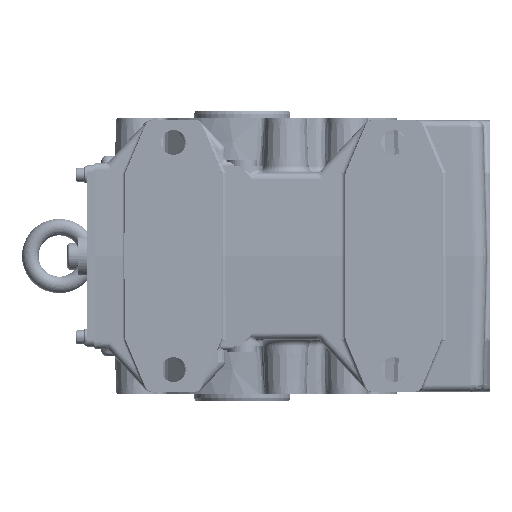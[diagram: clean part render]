
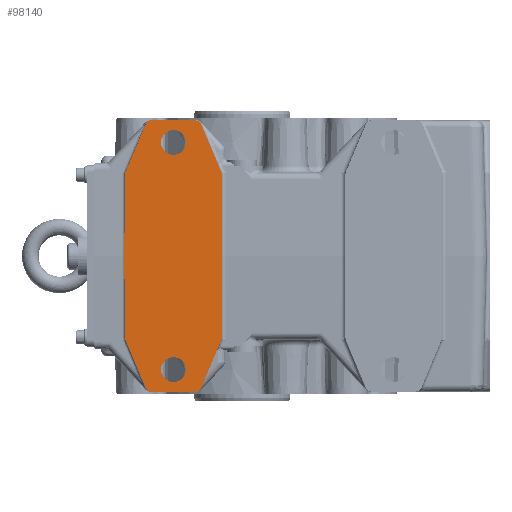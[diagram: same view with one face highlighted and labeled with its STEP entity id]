
A CAD part, left-side view. The second image highlights one B-rep face of the part: STEP entity #98140.
In plain terms, the highlighted planar face has unit normal (-1, 0, 0).
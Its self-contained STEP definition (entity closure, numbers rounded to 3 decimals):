
#77235=CARTESIAN_POINT('',(-112.,84.614,61.429));
#77236=VERTEX_POINT('',#77235);
#77237=CARTESIAN_POINT('',(-112.,82.368,66.75));
#77238=VERTEX_POINT('',#77237);
#77239=CARTESIAN_POINT('',(-112.,84.212,67.526));
#77240=DIRECTION('',(-1.0,0.0,0.0));
#77241=DIRECTION('',(0.0,0.388,-0.922));
#77242=AXIS2_PLACEMENT_3D('',#77239,#77240,#77241);
#77243=ELLIPSE('',#77242,82.895,2.0);
#77244=EDGE_CURVE('',#77236,#77238,#77243,.T.);
#77292=CARTESIAN_POINT('',(-112.,85.011,59.485));
#77293=VERTEX_POINT('',#77292);
#77294=CARTESIAN_POINT('',(-112.,85.011,59.485));
#77295=CARTESIAN_POINT('',(-112.,85.01,59.818));
#77296=CARTESIAN_POINT('',(-112.,84.976,60.151));
#77297=CARTESIAN_POINT('',(-112.,84.909,60.478));
#77298=CARTESIAN_POINT('',(-112.,84.842,60.804));
#77299=CARTESIAN_POINT('',(-112.,84.744,61.123));
#77300=CARTESIAN_POINT('',(-112.,84.614,61.429));
#77301=B_SPLINE_CURVE_WITH_KNOTS('',3,(#77294,#77295,#77296,#77297,#77298,#77299,#77300),.UNSPECIFIED.,.F.,.U.,(4,3,4),(-0.2,-0.1,0.0),.UNSPECIFIED.);
#77302=EDGE_CURVE('',#77293,#77236,#77301,.T.);
#77329=CARTESIAN_POINT('',(-112.,86.064,0.));
#77330=VERTEX_POINT('',#77329);
#77331=CARTESIAN_POINT('',(-112.,87.0,67.526));
#77332=DIRECTION('',(-1.0,0.0,0.0));
#77333=DIRECTION('',(0.0,0.0,-1.0));
#77334=AXIS2_PLACEMENT_3D('',#77331,#77332,#77333);
#77335=ELLIPSE('',#77334,76.403,2.0);
#77336=EDGE_CURVE('',#77330,#77293,#77335,.T.);
#77362=CARTESIAN_POINT('',(-112.,85.011,-59.485));
#77363=VERTEX_POINT('',#77362);
#77364=CARTESIAN_POINT('',(-112.,87.0,-67.526));
#77365=DIRECTION('',(-1.0,0.0,0.0));
#77366=DIRECTION('',(0.0,0.0,1.0));
#77367=AXIS2_PLACEMENT_3D('',#77364,#77365,#77366);
#77368=ELLIPSE('',#77367,76.403,2.0);
#77369=EDGE_CURVE('',#77363,#77330,#77368,.T.);
#84400=CARTESIAN_POINT('',(-112.,15.392,61.431));
#84401=VERTEX_POINT('',#84400);
#84402=CARTESIAN_POINT('',(-112.,15.0,59.49));
#84403=VERTEX_POINT('',#84402);
#84404=CARTESIAN_POINT('',(-112.,20.0,59.49));
#84405=DIRECTION('',(1.0,0.0,0.0));
#84406=DIRECTION('',(0.0,-0.98,0.198));
#84407=AXIS2_PLACEMENT_3D('',#84404,#84405,#84406);
#84408=CIRCLE('',#84407,5.);
#84409=EDGE_CURVE('',#84401,#84403,#84408,.T.);
#84432=CARTESIAN_POINT('',(-112.,29.712,95.44));
#84433=VERTEX_POINT('',#84432);
#84434=CARTESIAN_POINT('',(-112.,29.712,95.44));
#84435=DIRECTION('',(0.0,-0.388,-0.922));
#84436=VECTOR('',#84435,36.901);
#84437=LINE('',#84434,#84436);
#84438=EDGE_CURVE('',#84433,#84401,#84437,.T.);
#84460=CARTESIAN_POINT('',(-112.,34.32,98.5));
#84461=VERTEX_POINT('',#84460);
#84462=CARTESIAN_POINT('',(-112.,34.32,93.5));
#84463=DIRECTION('',(1.0,0.0,0.0));
#84464=DIRECTION('',(0.0,0.0,1.0));
#84465=AXIS2_PLACEMENT_3D('',#84462,#84463,#84464);
#84466=CIRCLE('',#84465,5.0);
#84467=EDGE_CURVE('',#84461,#84433,#84466,.T.);
#84485=CARTESIAN_POINT('',(-112.,65.68,98.5));
#84486=VERTEX_POINT('',#84485);
#84487=CARTESIAN_POINT('',(-112.,65.68,98.5));
#84488=DIRECTION('',(0.0,-1.0,0.0));
#84489=VECTOR('',#84488,31.36);
#84490=LINE('',#84487,#84489);
#84491=EDGE_CURVE('',#84486,#84461,#84490,.T.);
#84513=CARTESIAN_POINT('',(-112.,70.288,95.44));
#84514=VERTEX_POINT('',#84513);
#84515=CARTESIAN_POINT('',(-112.,65.68,93.5));
#84516=DIRECTION('',(1.0,0.0,0.0));
#84517=DIRECTION('',(0.0,0.0,1.0));
#84518=AXIS2_PLACEMENT_3D('',#84515,#84516,#84517);
#84519=CIRCLE('',#84518,5.0);
#84520=EDGE_CURVE('',#84514,#84486,#84519,.T.);
#84538=CARTESIAN_POINT('',(-112.0,82.368,66.75));
#84539=DIRECTION('',(0.0,-0.388,0.922));
#84540=VECTOR('',#84539,31.13);
#84541=LINE('',#84538,#84540);
#84542=EDGE_CURVE('',#77238,#84514,#84541,.T.);
#97556=CARTESIAN_POINT('',(-112.,84.614,-61.429));
#97557=VERTEX_POINT('',#97556);
#97558=CARTESIAN_POINT('',(-112.,84.614,-61.429));
#97559=CARTESIAN_POINT('',(-112.,84.744,-61.122));
#97560=CARTESIAN_POINT('',(-112.,84.843,-60.803));
#97561=CARTESIAN_POINT('',(-112.,84.909,-60.477));
#97562=CARTESIAN_POINT('',(-112.,84.976,-60.15));
#97563=CARTESIAN_POINT('',(-112.,85.01,-59.818));
#97564=CARTESIAN_POINT('',(-112.,85.011,-59.485));
#97565=B_SPLINE_CURVE_WITH_KNOTS('',3,(#97558,#97559,#97560,#97561,#97562,#97563,#97564),.UNSPECIFIED.,.F.,.U.,(4,3,4),(-0.2,-0.1,0.0),.UNSPECIFIED.);
#97566=EDGE_CURVE('',#97557,#77363,#97565,.T.);
#97593=CARTESIAN_POINT('',(-112.,82.368,-66.75));
#97594=VERTEX_POINT('',#97593);
#97595=CARTESIAN_POINT('',(-112.,84.212,-67.526));
#97596=DIRECTION('',(-1.0,0.0,0.0));
#97597=DIRECTION('',(0.0,0.388,0.922));
#97598=AXIS2_PLACEMENT_3D('',#97595,#97596,#97597);
#97599=ELLIPSE('',#97598,82.895,2.0);
#97600=EDGE_CURVE('',#97594,#97557,#97599,.T.);
#97624=CARTESIAN_POINT('',(-112.,70.288,-95.44));
#97625=VERTEX_POINT('',#97624);
#97626=CARTESIAN_POINT('',(-112.0,70.288,-95.44));
#97627=DIRECTION('',(0.0,0.388,0.922));
#97628=VECTOR('',#97627,31.13);
#97629=LINE('',#97626,#97628);
#97630=EDGE_CURVE('',#97625,#97594,#97629,.T.);
#97648=CARTESIAN_POINT('',(-112.,65.68,-98.5));
#97649=VERTEX_POINT('',#97648);
#97650=CARTESIAN_POINT('',(-112.,65.68,-93.5));
#97651=DIRECTION('',(1.0,0.0,0.0));
#97652=DIRECTION('',(0.0,0.0,-1.0));
#97653=AXIS2_PLACEMENT_3D('',#97650,#97651,#97652);
#97654=CIRCLE('',#97653,5.0);
#97655=EDGE_CURVE('',#97649,#97625,#97654,.T.);
#97673=CARTESIAN_POINT('',(-112.,34.32,-98.5));
#97674=VERTEX_POINT('',#97673);
#97675=CARTESIAN_POINT('',(-112.,34.32,-98.5));
#97676=DIRECTION('',(0.0,1.0,0.0));
#97677=VECTOR('',#97676,31.36);
#97678=LINE('',#97675,#97677);
#97679=EDGE_CURVE('',#97674,#97649,#97678,.T.);
#97701=CARTESIAN_POINT('',(-112.,29.712,-95.44));
#97702=VERTEX_POINT('',#97701);
#97703=CARTESIAN_POINT('',(-112.,34.32,-93.5));
#97704=DIRECTION('',(1.0,0.0,0.0));
#97705=DIRECTION('',(0.0,0.0,-1.0));
#97706=AXIS2_PLACEMENT_3D('',#97703,#97704,#97705);
#97707=CIRCLE('',#97706,5.0);
#97708=EDGE_CURVE('',#97702,#97674,#97707,.T.);
#97726=CARTESIAN_POINT('',(-112.,15.392,-61.431));
#97727=VERTEX_POINT('',#97726);
#97728=CARTESIAN_POINT('',(-112.,15.392,-61.431));
#97729=DIRECTION('',(0.0,0.388,-0.922));
#97730=VECTOR('',#97729,36.901);
#97731=LINE('',#97728,#97730);
#97732=EDGE_CURVE('',#97727,#97702,#97731,.T.);
#97753=CARTESIAN_POINT('',(-112.,15.0,-59.49));
#97754=VERTEX_POINT('',#97753);
#97755=CARTESIAN_POINT('',(-112.,20.0,-59.49));
#97756=DIRECTION('',(1.0,0.0,0.0));
#97757=DIRECTION('',(0.0,-0.98,-0.198));
#97758=AXIS2_PLACEMENT_3D('',#97755,#97756,#97757);
#97759=CIRCLE('',#97758,5.0);
#97760=EDGE_CURVE('',#97754,#97727,#97759,.T.);
#97778=CARTESIAN_POINT('',(-112.,15.0,59.49));
#97779=DIRECTION('',(0.0,0.0,-1.0));
#97780=VECTOR('',#97779,118.981);
#97781=LINE('',#97778,#97780);
#97782=EDGE_CURVE('',#84403,#97754,#97781,.T.);
#98092=CARTESIAN_POINT('',(-112.,-29.479,11.268));
#98093=DIRECTION('',(1.0,0.0,0.0));
#98094=DIRECTION('',(0.0,0.0,-1.0));
#98095=AXIS2_PLACEMENT_3D('',#98092,#98093,#98094);
#98096=PLANE('',#98095);
#98097=ORIENTED_EDGE('',*,*,#77369,.F.);
#98098=ORIENTED_EDGE('',*,*,#97566,.F.);
#98099=ORIENTED_EDGE('',*,*,#97600,.F.);
#98100=ORIENTED_EDGE('',*,*,#97630,.F.);
#98101=ORIENTED_EDGE('',*,*,#97655,.F.);
#98102=ORIENTED_EDGE('',*,*,#97679,.F.);
#98103=ORIENTED_EDGE('',*,*,#97708,.F.);
#98104=ORIENTED_EDGE('',*,*,#97732,.F.);
#98105=ORIENTED_EDGE('',*,*,#97760,.F.);
#98106=ORIENTED_EDGE('',*,*,#97782,.F.);
#98107=ORIENTED_EDGE('',*,*,#84409,.F.);
#98108=ORIENTED_EDGE('',*,*,#84438,.F.);
#98109=ORIENTED_EDGE('',*,*,#84467,.F.);
#98110=ORIENTED_EDGE('',*,*,#84491,.F.);
#98111=ORIENTED_EDGE('',*,*,#84520,.F.);
#98112=ORIENTED_EDGE('',*,*,#84542,.F.);
#98113=ORIENTED_EDGE('',*,*,#77244,.F.);
#98114=ORIENTED_EDGE('',*,*,#77302,.F.);
#98115=ORIENTED_EDGE('',*,*,#77336,.F.);
#98116=EDGE_LOOP('',(#98097,#98098,#98099,#98100,#98101,#98102,#98103,#98104,#98105,#98106,#98107,#98108,#98109,#98110,#98111,#98112,#98113,#98114,#98115));
#98117=FACE_OUTER_BOUND('',#98116,.T.);
#98118=CARTESIAN_POINT('',(-112.,50.0,-73.5));
#98119=VERTEX_POINT('',#98118);
#98120=CARTESIAN_POINT('',(-112.,50.0,-82.5));
#98121=DIRECTION('',(1.0,0.0,0.0));
#98122=DIRECTION('',(0.0,0.0,1.0));
#98123=AXIS2_PLACEMENT_3D('',#98120,#98121,#98122);
#98124=CIRCLE('',#98123,9.0);
#98125=EDGE_CURVE('',#98119,#98119,#98124,.T.);
#98126=ORIENTED_EDGE('',*,*,#98125,.T.);
#98127=EDGE_LOOP('',(#98126));
#98128=FACE_BOUND('',#98127,.T.);
#98129=CARTESIAN_POINT('',(-112.,50.,91.5));
#98130=VERTEX_POINT('',#98129);
#98131=CARTESIAN_POINT('',(-112.,50.,82.5));
#98132=DIRECTION('',(1.0,0.0,0.0));
#98133=DIRECTION('',(0.0,0.0,1.0));
#98134=AXIS2_PLACEMENT_3D('',#98131,#98132,#98133);
#98135=CIRCLE('',#98134,9.0);
#98136=EDGE_CURVE('',#98130,#98130,#98135,.T.);
#98137=ORIENTED_EDGE('',*,*,#98136,.T.);
#98138=EDGE_LOOP('',(#98137));
#98139=FACE_BOUND('',#98138,.T.);
#98140=ADVANCED_FACE('',(#98117,#98128,#98139),#98096,.F.);
